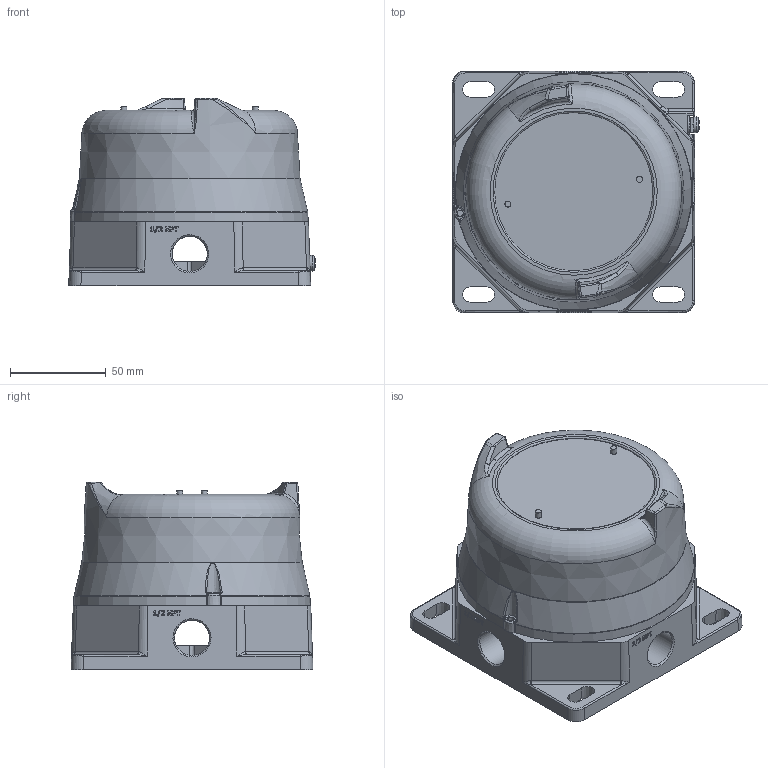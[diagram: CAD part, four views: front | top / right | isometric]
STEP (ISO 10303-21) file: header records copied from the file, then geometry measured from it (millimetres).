
FILE_DESCRIPTION(/* description */ (''),/* implementation_level */ '2;1');
FILE_NAME(/* name */ 'C:\Vault\Engineering Documents\Work In Progress\BKunz\JX Assemblies for STEP files\JX Standard.stp',/* time_stamp */ '2020-07-24T08:08:25-05:00',/* author */ ('ffmkunzbob'),/* organization */ (''),/* preprocessor_version */ 'ST-DEVELOPER v17',/* originating_system */ 'Autodesk Inventor 2018',/* authorisation */ '');
FILE_SCHEMA (('AUTOMOTIVE_DESIGN { 1 0 10303 214 3 1 1 }'));
Length unit declared in the file: inch
Products named in the file (9): JX Standard; 401823; 401817; 428088; 408988; 402216; 402196; 402177; 407103
Assembly tree (9 placements, depth 4):
  JX Standard
    401823
      401817
      428088  x2
    408988
    402216
      402196
        402177
    407103
Bounding box: 128.66 x 126.26 x 97.89 mm (x, y, z)
Volume: 408796.8 mm3; surface area: 130850.4 mm2
Topology: 6 solids, 7 shells, 1149 faces, 2996 edges, 1846 vertices
Faces by surface type: plane 649, bspline 253, cylinder 160, cone 47, torus 32, sphere 8
Full cylindrical faces by diameter (mm): 2.159 x2, 3.251 x5, 3.302 x2, 4.166 x1, 4.445 x1, 6.096 x2, 6.223 x2, 6.35 x2, 7.137 x1, 8.179 x1, 8.661 x1, 8.8 x1, 9.525 x2, 10.84 x1, 18.364 x4, 82.55 x1, 106.985 x1, 108.382 x1, 110.007 x1
Entity records: 38127 total; most frequent: CARTESIAN_POINT 14445, ORIENTED_EDGE 5086, DIRECTION 4131, EDGE_CURVE 2543, VERTEX_POINT 1607, LINE 1377, VECTOR 1377, AXIS2_PLACEMENT_3D 1377
